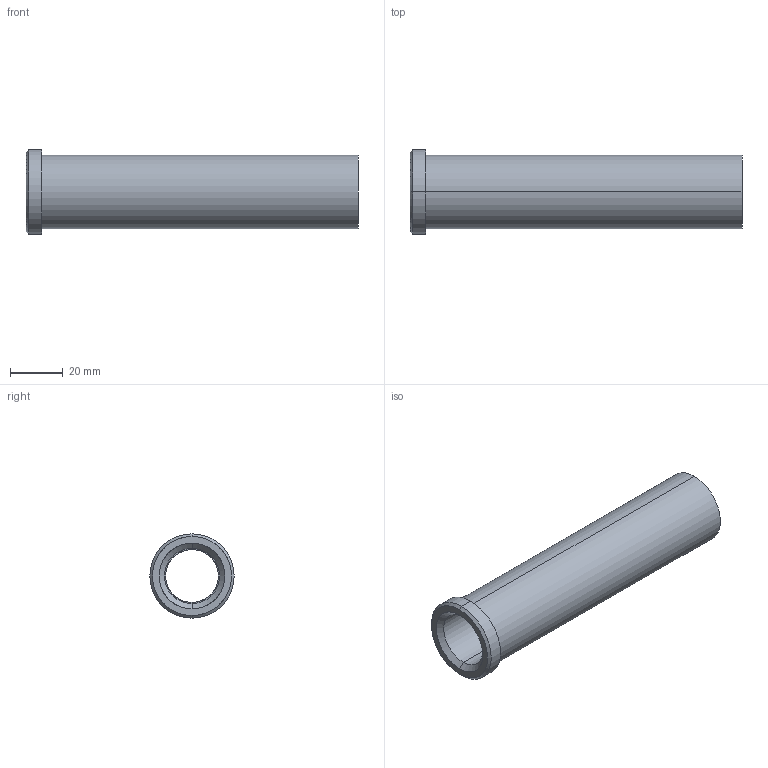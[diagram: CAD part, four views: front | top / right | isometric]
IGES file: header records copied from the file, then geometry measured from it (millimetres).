
Start section: START RECORD GO HERE.
Global section: file name: 353-20X126.igs; native system: DASSAULT SYSTEMES CATIA V5 R20 - www.3ds.com; preprocessor: CATIA Version 5 Release 20 ; author: Utente; organization: NB04-ASUS; date: 20210511.165414; units: millimetre
Bounding box: 126 x 32 x 32 mm (x, y, z)
Surface area: 20154.4 mm2 (no closed solid volume)
Topology: 0 solids, 0 shells, 18 faces, 116 edges, 116 vertices
Faces by surface type: revolution 14, plane 4
